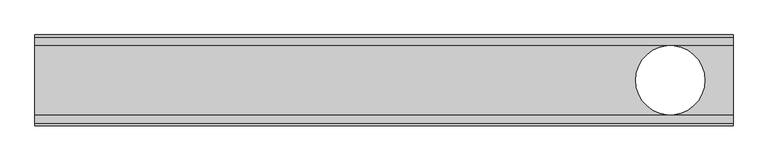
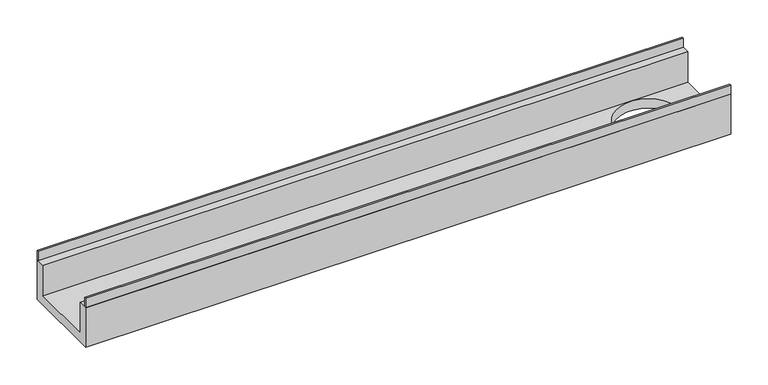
"""IFC4 building model written with IfcOpenShell, lengths in millimetres: sanitary terminal geometry, PF_ST_Slabdrain_H100K & H100KS_channels_USA_ACO : H100K-8 Constant Depth Channel with GS edge rail."""

from ifc_helpers import new_model, si_unit, frame, origin, place, context, project, spatial, polyline, circle_curve, outline, extrude, source, transform, mapped, element, save
from ifc_brep_helpers import plane_surface, revolved_surface, advanced_brep


def sanitary_terminal_b179111e(model_context):
    return source(origin(), model_context, "Body", "SolidModel", [
        advanced_brep(
        [(-605.6176554, 65.0, -15.0), (-605.6176554, 49.9996414, -15.0), (-605.6176554, 49.9996414, -65.0), (-605.6176554, -49.9996414, -65.0), (-605.6176554, -49.9996414, -15.0), (-605.6176554, -65.0, -15.0), (-605.6176554, -65.0, -80.0), (-605.6176554, 65.0, -80.0), (-1605.6176554, 65.0, -15.0), (-1605.6176554, 65.0, -80.0), (-1605.6176554, -65.0, -80.0), (-1605.6176554, -65.0, -15.0), (-1605.6176554, -49.9990295, -15.0), (-1605.6176554, -49.9990295, -65.0), (-1605.6176554, 49.9990295, -65.0), (-1605.6176554, 49.9990295, -15.0), (-745.1176554, 0.0, -80.0), (-646.1176554, 0.0, -80.0), (-646.1176554, 0.0, -65.0), (-745.1176554, 0.0, -65.0)],
        [
            (0, 1),
            (1, 2),
            (2, 3),
            (3, 4),
            (4, 5),
            (5, 6),
            (6, 7),
            (7, 0),
            (8, 9),
            (9, 10),
            (10, 11),
            (11, 12),
            (12, 13),
            (13, 14),
            (14, 15),
            (15, 8),
            (0, 8),
            (15, 1),
            (4, 12),
            (11, 5),
            (10, 6),
            (9, 7),
            (16, 17, circle_curve(frame((-695.6176554, 0.0, -80.0), z_axis=(0.0, 0.0, 1.0), x_axis=(1.0, 0.0, 0.0)), 49.5)),
            (17, 16, circle_curve(frame((-695.6176554, 0.0, -80.0), z_axis=(0.0, 0.0, 1.0), x_axis=(1.0, 0.0, 0.0)), 49.5)),
            (14, 2),
            (13, 3),
            (18, 19, circle_curve(frame((-695.6176554, 0.0, -65.0), z_axis=(0.0, 0.0, -1.0), x_axis=(1.0, 0.0, 0.0)), 49.5)),
            (19, 18, circle_curve(frame((-695.6176554, 0.0, -65.0), z_axis=(0.0, 0.0, -1.0), x_axis=(1.0, 0.0, 0.0)), 49.5)),
            (18, 17),
            (16, 19),
        ],
        [
            plane_surface(frame((-605.6176554, 0.0, -43.75), z_axis=(1.0, 0.0, 0.0), x_axis=(0.0, -1.0, 0.0))),
            plane_surface(frame((-1605.6176554, 0.0, -43.75), z_axis=(-1.0, 0.0, 0.0), x_axis=(0.0, -1.0, 0.0))),
            plane_surface(frame((-1605.6176554, 57.4995148, -15.0), z_axis=(0.0, 0.0, 1.0), x_axis=(0.0, -1.0, 0.0))),
            plane_surface(frame((-1605.6176554, -57.4995148, -15.0), z_axis=(0.0, 0.0, 1.0), x_axis=(0.0, -1.0, 0.0))),
            plane_surface(frame((-1605.6176554, -65.0, -47.5), z_axis=(0.0, -1.0, 0.0), x_axis=(0.0, 0.0, -1.0))),
            plane_surface(frame((-1605.6176554, 0.0, -80.0), z_axis=(0.0, 0.0, -1.0), x_axis=(0.0, 1.0, 0.0))),
            plane_surface(frame((-1605.6176554, 65.0, -47.5), z_axis=(0.0, 1.0, 0.0), x_axis=(0.0, 0.0, 1.0))),
            plane_surface(frame((-1605.6176554, 49.9990295, -40.0), z_axis=(6.118697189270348e-07, -0.9999999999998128, 0.0), x_axis=(0.0, 0.0, -1.0))),
            plane_surface(frame((-1605.6176554, 0.0, -65.0), z_axis=(0.0, 0.0, 1.0), x_axis=(0.0, -1.0, 0.0))),
            plane_surface(frame((-1605.6176554, -49.9990295, -40.0), z_axis=(6.118697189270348e-07, 0.9999999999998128, 0.0), x_axis=(0.0, 0.0, 1.0))),
            revolved_surface(polyline([(-646.1176554, 0.0, -80.0), (-646.1176554, 0.0, -65.0)]), (-695.6176554, 0.0, 0.0), (0.0, 0.0, -1.0)),
        ],
        [
            (0, [[1, 2, 3, 4, 5, 6, 7, 8]]),
            (1, [[9, 10, 11, 12, 13, 14, 15, 16]]),
            (2, [[-1, 17, -16, 18]]),
            (3, [[-5, 19, -12, 20]]),
            (4, [[-6, -20, -11, 21]]),
            (5, [[-7, -21, -10, 22], [23, 24]]),
            (6, [[-8, -22, -9, -17]]),
            (7, [[-2, -18, -15, 25]]),
            (8, [[-3, -25, -14, 26], [27, 28]]),
            (9, [[-4, -26, -13, -19]]),
            (10, [[29, -23, 30, -27]]),
            (10, [[-29, -28, -30, -24]]),
        ],
    ),
        extrude(outline(polyline([(-605.6176554, 65.0), (-605.6176554, 62.0), (-1605.6176554, 62.0), (-1605.6176554, 65.0), (-605.6176554, 65.0)])), frame((0.0, 0.0, -15.0), z_axis=(0.0, 0.0, 1.0), x_axis=(1.0, 0.0, 0.0)), (0.0, 0.0, 1.0), 15.0),
        extrude(outline(polyline([(-605.6176554, -62.0), (-605.6176554, -65.0), (-1605.6176554, -65.0), (-1605.6176554, -62.0), (-605.6176554, -62.0)])), frame((0.0, 0.0, -15.0), z_axis=(0.0, 0.0, 1.0), x_axis=(1.0, 0.0, 0.0)), (0.0, 0.0, 1.0), 15.0),
    ])


if __name__ == "__main__":
    model = new_model("IFC4")
    model_context = context("Model", 3, world=origin())
    ifc_project = project(units=[si_unit("LENGTHUNIT", "METRE", prefix="MILLI")], contexts=[model_context])
    site = spatial("IfcSite", under=ifc_project)
    building = spatial("IfcBuilding", under=site)
    placement = place(None, origin())
    sanitary_terminal_shape = sanitary_terminal_b179111e(model_context)
    element("IfcSanitaryTerminal", 1, ObjectType="PF_ST_Slabdrain_H100K & H100KS_channels_USA_ACO : H100K-8 Constant Depth Channel with GS edge rail", at=placement, inside=building, context=model_context, shape_type="MappedRepresentation", body=[
        mapped(sanitary_terminal_shape, transform((0.0, 0.0, 0.0), x_axis=(1.0, 0.0, 0.0), y_axis=(0.0, 1.0, 0.0), z_axis=(0.0, 0.0, 1.0))),
    ])
    save(model, "model.ifc")
